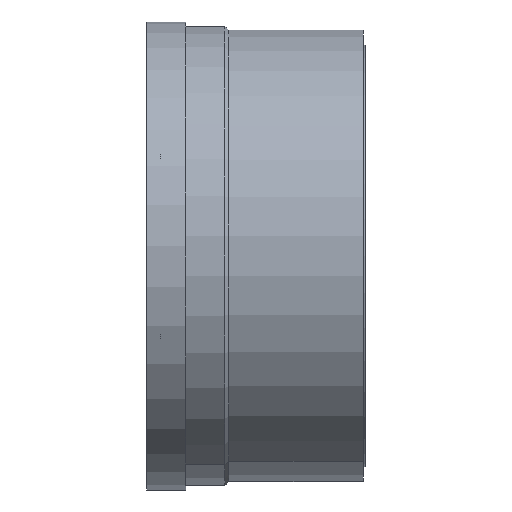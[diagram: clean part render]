
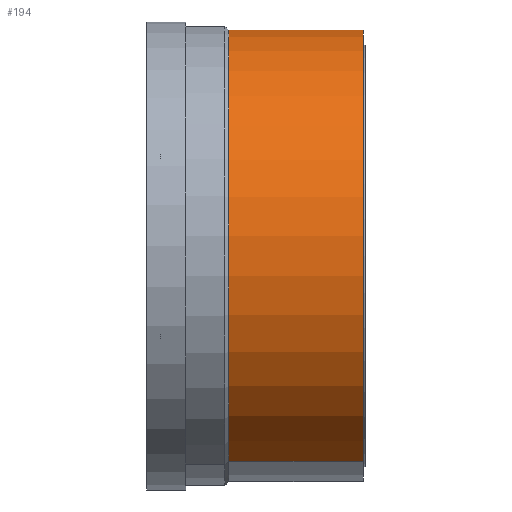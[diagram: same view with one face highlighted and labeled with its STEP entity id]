
A CAD part, left-side view. The second image highlights one B-rep face of the part: STEP entity #194.
In plain terms, the highlighted cylindrical face has radius 58 mm (diameter 116 mm), a partial arc.
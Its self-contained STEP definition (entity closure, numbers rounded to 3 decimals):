
#194 = ADVANCED_FACE ( 'NONE', ( #496 ), #6922, .T. ) ;
#492 = CARTESIAN_POINT ( 'NONE',  ( -27.625, 28.566, -52.564 ) ) ;
#496 = FACE_OUTER_BOUND ( 'NONE', #8831, .T. ) ;
#1028 = ORIENTED_EDGE ( 'NONE', *, *, #1806, .F. ) ;
#1374 = DIRECTION ( 'NONE',  ( -0.423, 0., -0.906 ) ) ;
#1714 = DIRECTION ( 'NONE',  ( 0., 1., 0. ) ) ;
#1732 = AXIS2_PLACEMENT_3D ( 'NONE', #8703, #8268, #1374 ) ;
#1771 = CARTESIAN_POINT ( 'NONE',  ( -27.625, 11.5, -52.564 ) ) ;
#1806 = EDGE_CURVE ( 'NONE', #3161, #4593, #7258, .T. ) ;
#2002 = CARTESIAN_POINT ( 'NONE',  ( -3.113, 11.5, 0.002 ) ) ;
#2033 = VECTOR ( 'NONE', #6895, 1000. ) ;
#2228 = CARTESIAN_POINT ( 'NONE',  ( -27.625, -23., -52.564 ) ) ;
#2363 = VECTOR ( 'NONE', #1714, 1000. ) ;
#3148 = AXIS2_PLACEMENT_3D ( 'NONE', #2002, #3390, #4761 ) ;
#3161 = VERTEX_POINT ( 'NONE', #2228 ) ;
#3390 = DIRECTION ( 'NONE',  ( 0., -1., 0. ) ) ;
#3518 = CARTESIAN_POINT ( 'NONE',  ( 21.399, 28.566, 52.568 ) ) ;
#3557 = VERTEX_POINT ( 'NONE', #4384 ) ;
#4384 = CARTESIAN_POINT ( 'NONE',  ( 21.399, -23., 52.568 ) ) ;
#4513 = CIRCLE ( 'NONE', #8654, 58. ) ;
#4593 = VERTEX_POINT ( 'NONE', #1771 ) ;
#4595 = CIRCLE ( 'NONE', #3148, 58. ) ;
#4628 = VERTEX_POINT ( 'NONE', #8014 ) ;
#4761 = DIRECTION ( 'NONE',  ( 0.423, 0., 0.906 ) ) ;
#4971 = EDGE_CURVE ( 'NONE', #3161, #3557, #4513, .T. ) ;
#5412 = EDGE_CURVE ( 'NONE', #3557, #4628, #6322, .T. ) ;
#5746 = CARTESIAN_POINT ( 'NONE',  ( -3.113, -23., 0.002 ) ) ;
#5882 = DIRECTION ( 'NONE',  ( 0., 1., 0. ) ) ;
#6322 = LINE ( 'NONE', #3518, #2033 ) ;
#6817 = ORIENTED_EDGE ( 'NONE', *, *, #8494, .T. ) ;
#6895 = DIRECTION ( 'NONE',  ( 0., 1., 0. ) ) ;
#6922 = CYLINDRICAL_SURFACE ( 'NONE', #1732, 58. ) ;
#7258 = LINE ( 'NONE', #492, #2363 ) ;
#7484 = ORIENTED_EDGE ( 'NONE', *, *, #5412, .T. ) ;
#8014 = CARTESIAN_POINT ( 'NONE',  ( 21.399, 11.5, 52.568 ) ) ;
#8268 = DIRECTION ( 'NONE',  ( 0., 1., 0. ) ) ;
#8487 = DIRECTION ( 'NONE',  ( -0.423, 0., -0.906 ) ) ;
#8494 = EDGE_CURVE ( 'NONE', #4628, #4593, #4595, .T. ) ;
#8654 = AXIS2_PLACEMENT_3D ( 'NONE', #5746, #5882, #8487 ) ;
#8703 = CARTESIAN_POINT ( 'NONE',  ( -3.113, 28.566, 0.002 ) ) ;
#8831 = EDGE_LOOP ( 'NONE', ( #8918, #7484, #6817, #1028 ) ) ;
#8918 = ORIENTED_EDGE ( 'NONE', *, *, #4971, .T. ) ;
